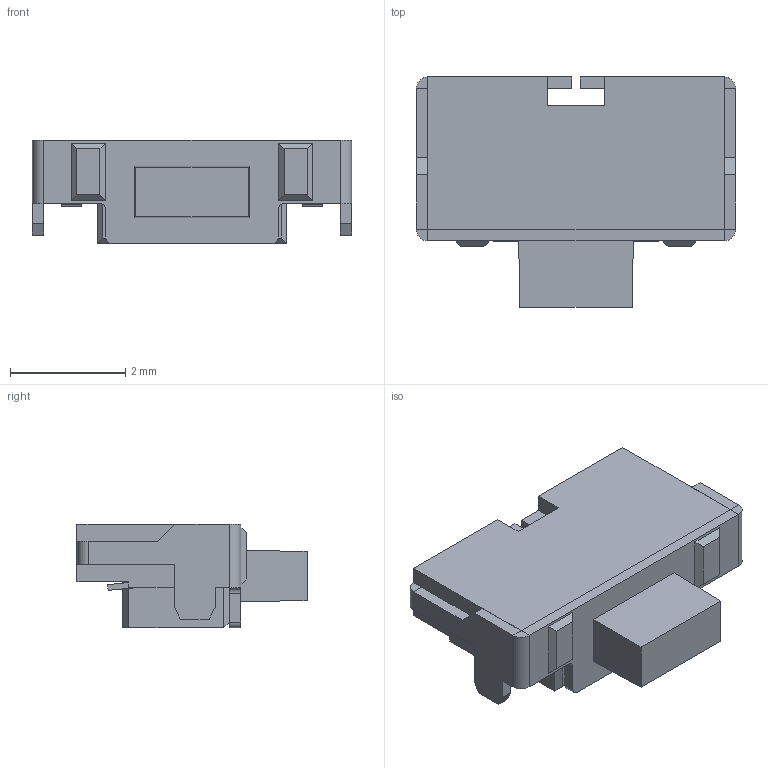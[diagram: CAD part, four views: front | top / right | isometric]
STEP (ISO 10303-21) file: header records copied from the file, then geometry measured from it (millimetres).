
FILE_DESCRIPTION((''),'2;1');
FILE_NAME('JQD1856L-B0403-AG-1-105_ASM','2026-05-21T15:55:14',('Admin'),(''),'CREO PARAMETRIC BY PTC INC, 2019224','CREO PARAMETRIC BY PTC INC, 2019224','');
FILE_SCHEMA(('AUTOMOTIVE_DESIGN { 1 0 10303 214 1 1 1 1 }'));
Length unit declared in the file: millimetre
Products named in the file (3): JQD1856L-B0403-AG-1-105_01; JQD1856L-B0403-AG-1-105_02; JQD1856L-B0403-AG-1-105_ASM
Assembly tree (2 placements, depth 2):
  JQD1856L-B0403-AG-1-105_ASM
    JQD1856L-B0403-AG-1-105_01
    JQD1856L-B0403-AG-1-105_02
Bounding box: 5.55 x 4 x 1.8 mm (x, y, z)
Volume: 23 mm3; surface area: 97 mm2
Topology: 2 solids, 2 shells, 144 faces, 361 edges, 228 vertices
Faces by surface type: plane 134, cylinder 10
Entity records: 5162 total; most frequent: CARTESIAN_POINT 747, ORIENTED_EDGE 722, DIRECTION 683, EDGE_CURVE 361, VECTOR 341, LINE 341, PRESENTATION_STYLE_ASSIGNMENT 229, VERTEX_POINT 228
